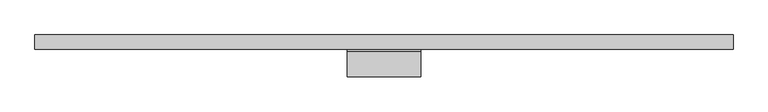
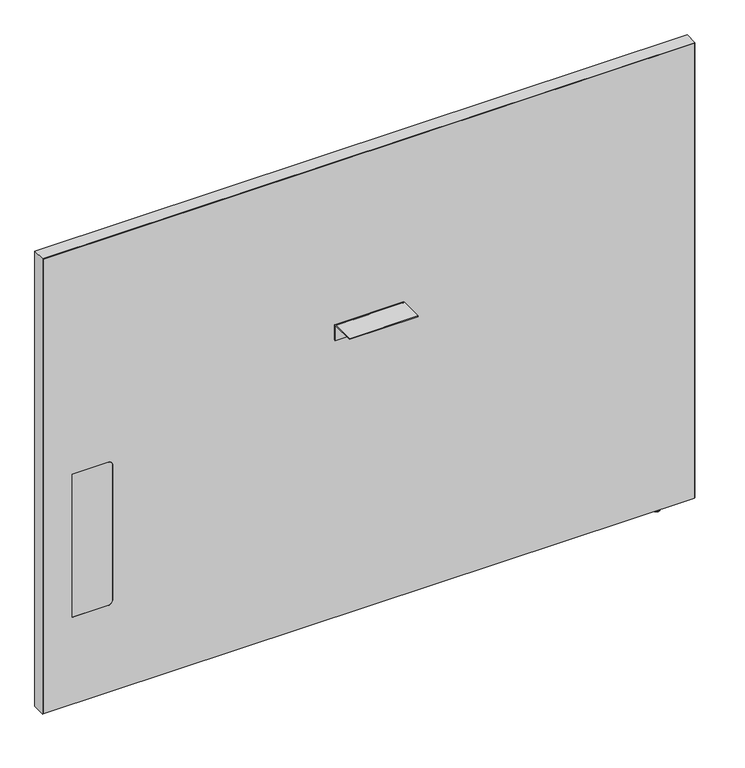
"""IFC4 building model written with IfcOpenShell, lengths in millimetres: furniture geometry, Steelcase - Answer Solution - Boundary Screen - Straight - Single Sided : 42H x 57W."""

from ifc_helpers import new_model, si_unit, point, frame, frame_2d, origin, place, context, project, spatial, polyline, circle_curve, ellipse_curve, trimmed, segment, composite_curve, outline, extrude, source, transform, mapped, element, save
from ifc_brep_helpers import plane_surface, cylinder_surface, revolved_surface, advanced_brep


def furniture_75315da0(model_context):
    return source(origin(), model_context, "Body", "SolidModel", [
        extrude(outline(composite_curve([segment(polyline([(-86.8398151, 696.4680019), (-86.8398151, 698.5), (-34.9450855, 698.5)]), True, "CONTINUOUS"), segment(trimmed(circle_curve(frame_2d((-34.9450855, 693.2447477)), 5.2552523), [point((-34.9450855, 698.5))], [point((-29.6898332, 693.2447477))], False, "CARTESIAN"), True, "CONTINUOUS"), segment(polyline([(-29.6898332, 693.2447477), (-29.6898332, 660.4), (-31.7218162, 660.4), (-31.7218162, 693.0058743)]), True, "CONTINUOUS"), segment(trimmed(circle_curve(frame_2d((-35.1839438, 693.0058743)), 3.4621276), [point((-31.7218162, 693.0058743))], [point((-35.1839438, 696.4680019))], True, "CARTESIAN"), True, "CONTINUOUS"), segment(polyline([(-35.1839438, 696.4680019), (-86.8398151, 696.4680019)]), True, "CONTINUOUS")], self_intersect=False)), frame((1.2191407, 0.0, 0.0), z_axis=(1.0, 0.0, 0.0), x_axis=(0.0, 1.0, 0.0)), (0.0, 0.0, 1.0), 152.4000969),
        advanced_brep(
        [(724.1286488, -23.7588726, 9.9059849), (724.1286488, -5.9309607, 9.9059849), (724.1286488, -14.8449166, 9.9059849), (724.1286488, -23.7588726, 2.9673238), (724.1286488, -5.9309607, 2.9673238), (724.1286488, -22.7915354, 2.9673238), (724.1286488, -6.8982978, 2.9673238), (724.1286488, -22.7915354, 1.6569081), (724.1286488, -6.8982978, 1.6569081), (724.1286488, -21.1346274, 0.0), (724.1286488, -8.5552059, 0.0), (724.1286488, -14.8449166, 0.0)],
        [
            (0, 1, circle_curve(frame((724.1286488, -14.8449166, 9.9059849), z_axis=(0.0, 0.0, 1.0), x_axis=(0.0, 1.0, 0.0)), 8.913956)),
            (1, 2),
            (2, 0),
            (1, 0, circle_curve(frame((724.1286488, -14.8449166, 9.9059849), z_axis=(0.0, 0.0, 1.0), x_axis=(0.0, 1.0, 0.0)), 8.913956)),
            (3, 4, circle_curve(frame((724.1286488, -14.8449166, 2.9673238), z_axis=(0.0, 0.0, 1.0), x_axis=(0.0, 1.0, 0.0)), 8.913956)),
            (4, 1),
            (0, 3),
            (4, 3, circle_curve(frame((724.1286488, -14.8449166, 2.9673238), z_axis=(0.0, 0.0, 1.0), x_axis=(0.0, 1.0, 0.0)), 8.913956)),
            (5, 6, circle_curve(frame((724.1286488, -14.8449166, 2.9673238), z_axis=(0.0, 0.0, 1.0), x_axis=(0.0, 1.0, 0.0)), 7.9466188)),
            (6, 4),
            (3, 5),
            (6, 5, circle_curve(frame((724.1286488, -14.8449166, 2.9673238), z_axis=(0.0, 0.0, 1.0), x_axis=(0.0, 1.0, 0.0)), 7.9466188)),
            (7, 8, circle_curve(frame((724.1286488, -14.8449166, 1.6569081), z_axis=(0.0, 0.0, 1.0), x_axis=(0.0, 1.0, 0.0)), 7.9466188)),
            (8, 6),
            (5, 7),
            (8, 7, circle_curve(frame((724.1286488, -14.8449166, 1.6569081), z_axis=(0.0, 0.0, 1.0), x_axis=(0.0, 1.0, 0.0)), 7.9466188)),
            (9, 10, circle_curve(frame((724.1286488, -14.8449166, 0.0), z_axis=(0.0, 0.0, 1.0), x_axis=(0.0, 1.0, 0.0)), 6.2897107)),
            (10, 8, circle_curve(frame((724.1286488, -8.5552059, 1.6569081), z_axis=(1.0, 0.0, 0.0), x_axis=(0.0, 1.0, 0.0)), 1.6569081)),
            (7, 9, circle_curve(frame((724.1286488, -21.1346274, 1.6569081), z_axis=(1.0, 0.0, 0.0), x_axis=(0.0, -1.0, 0.0)), 1.6569081)),
            (10, 9, circle_curve(frame((724.1286488, -14.8449166, 0.0), z_axis=(0.0, 0.0, 1.0), x_axis=(0.0, 1.0, 0.0)), 6.2897107)),
            (11, 10),
            (9, 11),
        ],
        [
            plane_surface(frame((724.1286488, -14.8449166, 9.9059849), z_axis=(0.0, 0.0, 1.0), x_axis=(0.0, 1.0, 0.0))),
            cylinder_surface(frame((724.1286488, -14.8449166, 9.9059849), z_axis=(0.0, 0.0, -1.0), x_axis=(0.0, 1.0, 0.0)), 8.913956),
            plane_surface(frame((724.1286488, -14.8449166, 2.9673238), z_axis=(0.0, 0.0, -1.0), x_axis=(0.0, 1.0, 0.0))),
            cylinder_surface(frame((724.1286488, -14.8449166, 9.9059849), z_axis=(0.0, 0.0, -1.0), x_axis=(0.0, 1.0, 0.0)), 7.9466188),
            revolved_surface(trimmed(ellipse_curve(frame((724.1286488, -8.5552059, 1.6569081), z_axis=(-1.0, 0.0, 0.0), x_axis=(0.0, 1.0, 0.0)), 1.6569081, 1.6569081), [point((724.1286488, -6.8982978, 1.6569081))], [point((724.1286488, -8.5552059, 0.0))], True, "CARTESIAN"), (724.1286488, -14.8449166, 9.9059849), (0.0, 0.0, -1.0)),
            plane_surface(frame((724.1286488, -14.8449166, 0.0), z_axis=(0.0, 0.0, -1.0), x_axis=(0.0, 1.0, 0.0))),
        ],
        [
            (0, [[1, 2, 3]]),
            (0, [[4, -3, -2]]),
            (1, [[5, 6, -1, 7]]),
            (1, [[8, -7, -4, -6]]),
            (2, [[9, 10, -5, 11]]),
            (2, [[12, -11, -8, -10]]),
            (3, [[13, 14, -9, 15]]),
            (3, [[16, -15, -12, -14]]),
            (4, [[17, 18, -13, 19]]),
            (4, [[20, -19, -16, -18]]),
            (5, [[21, -17, 22]]),
            (5, [[-22, -20, -21]]),
        ],
    ),
        advanced_brep(
        [(800.2780168, 0.0, 1076.742118), (800.2780168, 0.0, 9.9059849), (-645.4902221, 0.0, 9.9059849), (-645.4902221, 0.0, 1076.742118), (800.2780168, -29.6898332, 1076.742118), (-645.4902221, -29.6898332, 1076.742118), (-645.4902221, -29.6898332, 9.9059849), (800.2780168, -29.6898332, 9.9059849), (-501.1463873, -29.6898332, 549.6162029), (-490.9863873, -29.6898332, 539.4562029), (-490.9863873, -29.6898332, 223.9362137), (-501.1463873, -29.6898332, 213.7762137), (-580.800285, -29.6898332, 213.7762137), (-580.800285, -29.6898332, 549.6162029), (-580.800285, -29.0550397, 549.6162029), (-501.1463873, -29.0550397, 549.6162029), (-580.800285, -29.0550397, 213.7762137), (-501.1463873, -29.0550397, 213.7762137), (-490.9863873, -29.0550397, 223.9362137), (-490.9863873, -29.0550397, 539.4562029)],
        [
            (0, 1),
            (1, 2),
            (2, 3),
            (3, 0),
            (4, 5),
            (5, 6),
            (6, 7),
            (7, 4),
            (8, 9, circle_curve(frame((-501.1463873, -29.6898332, 539.4562029), z_axis=(0.0, 1.0, 0.0), x_axis=(0.0, 0.0, 1.0)), 10.16)),
            (9, 10),
            (10, 11, circle_curve(frame((-501.1463873, -29.6898332, 223.9362137), z_axis=(0.0, 1.0, 0.0), x_axis=(0.0, 0.0, 1.0)), 10.16)),
            (11, 12),
            (12, 13),
            (13, 8),
            (0, 4),
            (7, 1),
            (6, 2),
            (5, 3),
            (13, 14),
            (14, 15),
            (15, 8),
            (12, 16),
            (16, 14),
            (11, 17),
            (17, 16),
            (10, 18),
            (18, 17, circle_curve(frame((-501.1463873, -29.0550397, 223.9362137), z_axis=(0.0, 1.0, 0.0), x_axis=(0.0, 0.0, 1.0)), 10.16)),
            (9, 19),
            (19, 18),
            (15, 19, circle_curve(frame((-501.1463873, -29.0550397, 539.4562029), z_axis=(0.0, 1.0, 0.0), x_axis=(0.0, 0.0, 1.0)), 10.16)),
        ],
        [
            plane_surface(frame((800.2780168, 0.0, 1076.742118), z_axis=(0.0, 1.0, 0.0), x_axis=(0.0, 0.0, -1.0))),
            plane_surface(frame((800.2780168, -29.6898332, 1076.742118), z_axis=(0.0, -1.0, 0.0), x_axis=(0.0, 0.0, 1.0))),
            plane_surface(frame((800.2780168, 0.0, 1076.742118), z_axis=(1.0, 0.0, 0.0), x_axis=(0.0, -1.0, 0.0))),
            plane_surface(frame((800.2780168, 0.0, 9.9059849), z_axis=(0.0, 0.0, -1.0), x_axis=(0.0, -1.0, 0.0))),
            plane_surface(frame((-645.4902221, 0.0, 9.9059849), z_axis=(-1.0, 0.0, 0.0), x_axis=(0.0, -1.0, 0.0))),
            plane_surface(frame((-645.4902221, 0.0, 1076.742118), z_axis=(0.0, 0.0, 1.0), x_axis=(0.0, -1.0, 0.0))),
            plane_surface(frame((-501.1463873, 0.0, 549.6162029), z_axis=(0.0, 0.0, -1.0), x_axis=(0.0, -1.0, 0.0))),
            plane_surface(frame((-580.800285, 0.0, 549.6162029), z_axis=(1.0, 0.0, 0.0), x_axis=(0.0, -1.0, 0.0))),
            plane_surface(frame((-580.800285, 0.0, 213.7762137), z_axis=(0.0, 0.0, 1.0), x_axis=(0.0, -1.0, 0.0))),
            revolved_surface(polyline([(-501.1463873, -29.6898332, 234.0962137), (-501.1463873, -29.0550397, 234.0962137)]), (-501.1463873, -29.6898332, 223.9362137), (0.0, -1.0, 0.0)),
            plane_surface(frame((-490.9863873, 0.0, 223.9362137), z_axis=(-1.0, 0.0, 0.0), x_axis=(0.0, -1.0, 0.0))),
            revolved_surface(polyline([(-501.1463873, -29.6898332, 549.6162029), (-501.1463873, -29.0550397, 549.6162029)]), (-501.1463873, -29.6898332, 539.4562029), (0.0, -1.0, 0.0)),
            plane_surface(frame((-490.9863873, -29.0550397, 629.172953), z_axis=(0.0, -1.0, 0.0), x_axis=(0.0, 0.0, 1.0))),
        ],
        [
            (0, [[1, 2, 3, 4]]),
            (1, [[5, 6, 7, 8], [9, 10, 11, 12, 13, 14]]),
            (2, [[-1, 15, -8, 16]]),
            (3, [[-2, -16, -7, 17]]),
            (4, [[-3, -17, -6, 18]]),
            (5, [[-4, -18, -5, -15]]),
            (6, [[-14, 19, 20, 21]]),
            (7, [[-13, 22, 23, -19]]),
            (8, [[-12, 24, 25, -22]]),
            (9, [[-11, 26, 27, -24]]),
            (10, [[-10, 28, 29, -26]]),
            (11, [[-9, -21, 30, -28]]),
            (12, [[-20, -23, -25, -27, -29, -30]]),
        ],
    ),
        extrude(outline(composite_curve([segment(polyline([(549.6162029, -501.1463873), (549.6162029, -580.800285), (213.7762137, -580.800285), (213.7762137, -501.1463873)]), True, "CONTINUOUS"), segment(trimmed(circle_curve(frame_2d((223.9362137, -501.1463873)), 10.16), [point((213.7762137, -501.1463873))], [point((223.9362137, -490.9863873))], False, "CARTESIAN"), True, "CONTINUOUS"), segment(polyline([(223.9362137, -490.9863873), (539.4562029, -490.9863873)]), True, "CONTINUOUS"), segment(trimmed(circle_curve(frame_2d((539.4562029, -501.1463873)), 10.16), [point((539.4562029, -490.9863873))], [point((549.6162029, -501.1463873))], False, "CARTESIAN"), True, "CONTINUOUS")], self_intersect=False)), frame((0.0, -29.6898332, 0.0), z_axis=(0.0, 1.0, 0.0), x_axis=(0.0, 0.0, 1.0)), (0.0, 0.0, 1.0), 0.6347935),
        extrude(outline(polyline([(1077.722, 801.3191891), (1077.722, -646.4808109), (9.9059849, -646.4808109), (9.9059849, -645.4902221), (1076.742118, -645.4902221), (1076.742118, 800.2780168), (9.9059849, 800.2780168), (9.9059849, 801.3191891), (1077.722, 801.3191891)])), frame((0.0, -29.6898332, 0.0), z_axis=(0.0, 1.0, 0.0), x_axis=(0.0, 0.0, 1.0)), (0.0, 0.0, 1.0), 29.6898332),
    ])


if __name__ == "__main__":
    model = new_model("IFC4")
    model_context = context("Model", 3, world=origin())
    ifc_project = project(units=[si_unit("LENGTHUNIT", "METRE", prefix="MILLI")], contexts=[model_context])
    site = spatial("IfcSite", under=ifc_project)
    building = spatial("IfcBuilding", under=site)
    placement = place(None, origin())
    furniture_shape = furniture_75315da0(model_context)
    element("IfcFurniture", 1, ObjectType="Steelcase - Answer Solution - Boundary Screen - Straight - Single Sided : 42H x 57W", at=placement, inside=building, context=model_context, shape_type="MappedRepresentation", body=[
        mapped(furniture_shape, transform((0.0, 0.0, 0.0), x_axis=(1.0, 0.0, 0.0), y_axis=(0.0, 1.0, 0.0), z_axis=(0.0, 0.0, 1.0))),
    ])
    save(model, "model.ifc")
